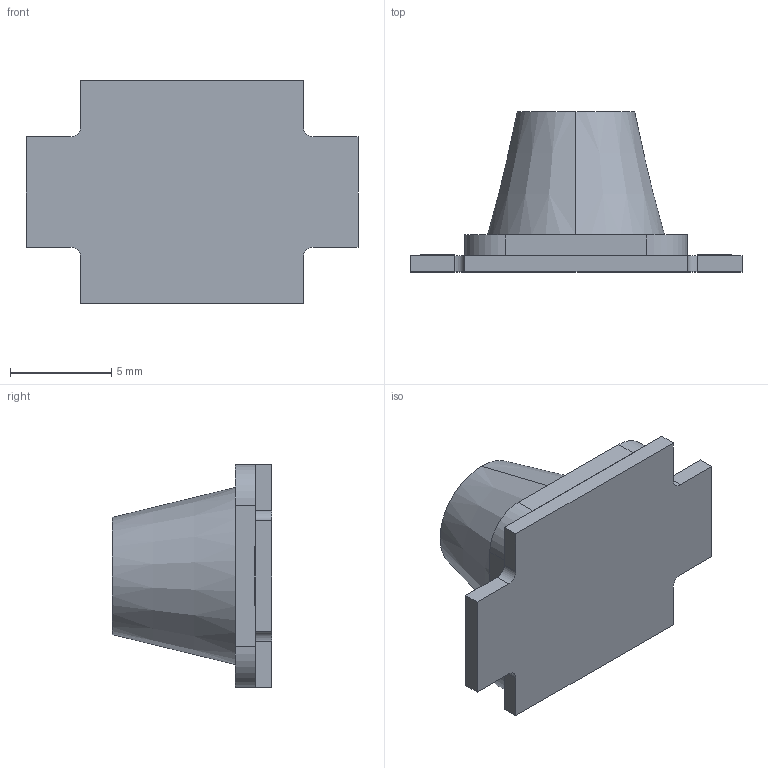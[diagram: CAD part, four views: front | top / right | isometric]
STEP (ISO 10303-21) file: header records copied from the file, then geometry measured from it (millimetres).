
FILE_DESCRIPTION (( 'STEP AP214' ), '1' );
FILE_NAME ('SW-04.STEP', '2023-11-14T02:26:27', ( '' ), ( '' ), 'SwSTEP 2.0', 'SolidWorks 2021', '' );
FILE_SCHEMA (( 'AUTOMOTIVE_DESIGN' ));
Length unit declared in the file: millimetre
Products named in the file (1): SW-04
Bounding box: 16.4 x 7.9 x 11 mm (x, y, z)
Volume: 276.3 mm3; surface area: 881.9 mm2
Topology: 3 solids, 3 shells, 347 faces, 903 edges, 591 vertices
Faces by surface type: plane 206, bspline 70, cylinder 55, torus 6, sphere 6, cone 4
Entity records: 17397 total; most frequent: CARTESIAN_POINT 5948, ORIENTED_EDGE 1792, DIRECTION 1441, EDGE_CURVE 896, VECTOR 627, LINE 627, VERTEX_POINT 590, AXIS2_PLACEMENT_3D 407
